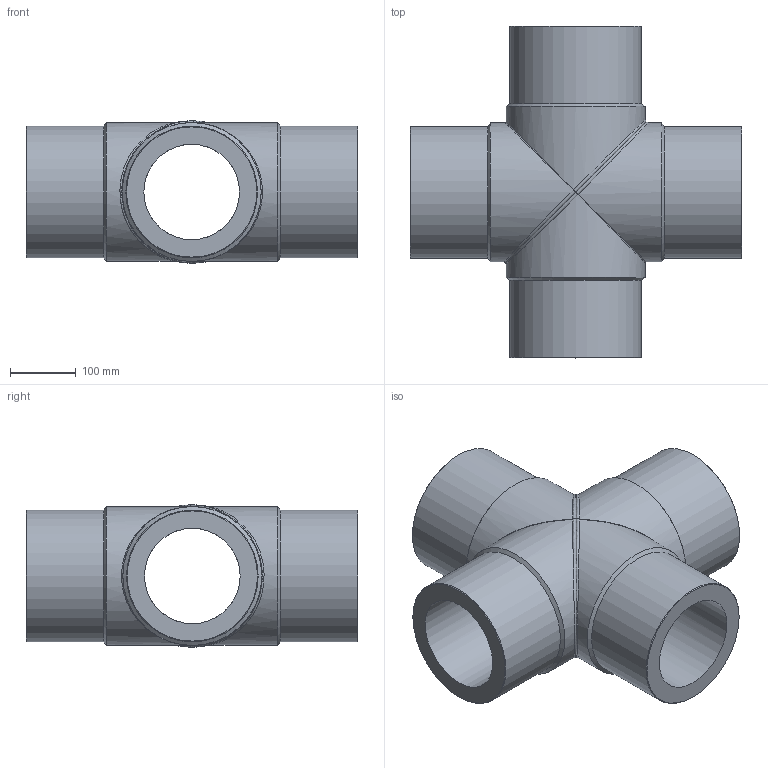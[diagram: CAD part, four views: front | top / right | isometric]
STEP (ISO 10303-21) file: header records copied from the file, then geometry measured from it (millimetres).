
FILE_DESCRIPTION(/* description */ ('Unknown'),/* implementation_level */ '2;1');
FILE_NAME(/* name */ 'CRP200H',/* time_stamp */ '2022-07-08T14:50:55+02:00',/* author */ ('Unknown'),/* organization */ ('Unknown'),/* preprocessor_version */ 'ST-DEVELOPER v18.102',/* originating_system */ 'Solid Edge',/* authorisation */ 'Unknown');
FILE_SCHEMA (('AUTOMOTIVE_DESIGN {1 0 10303 214 3 1 1}'));
Length unit declared in the file: millimetre
Products named in the file (3): CRP200H; CRP200H_mir
Assembly tree (2 placements, depth 2):
  CRP200H
    CRP200H
    CRP200H_mir
Bounding box: 504 x 504 x 215.99 mm (x, y, z)
Volume: 12633283.3 mm3; surface area: 968151.8 mm2
Topology: 2 solids, 2 shells, 32 faces, 88 edges, 58 vertices
Faces by surface type: cylinder 12, cone 8, plane 6, bspline 6
Full cylindrical faces by diameter (mm): 145.2 x4, 200 x4, 211 x4
Entity records: 3425 total; most frequent: CARTESIAN_POINT 2707, DIRECTION 126, ORIENTED_EDGE 116, AXIS2_PLACEMENT_3D 63, EDGE_CURVE 58, EDGE_LOOP 58, FACE_BOUND 58, VERTEX_POINT 48
